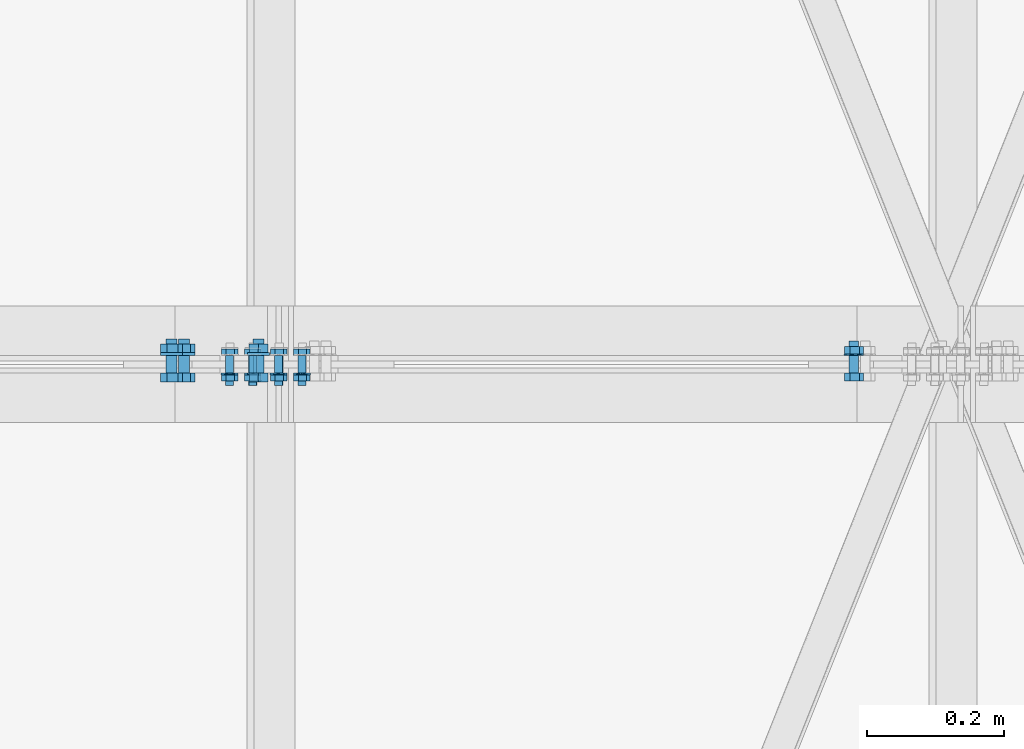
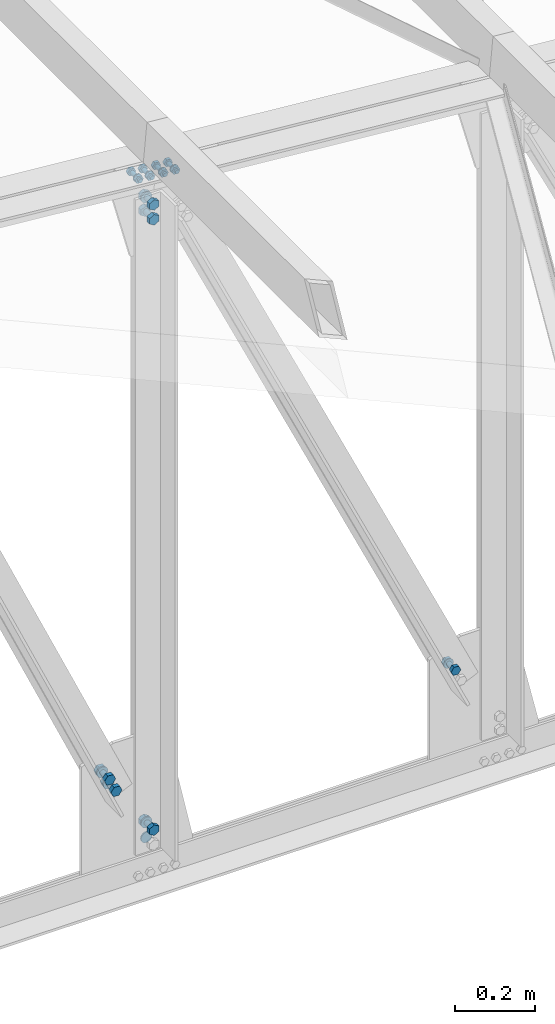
# One storey, part 123 of 251: 40 mechanical fasteners.
"""IFC4 building model written with IfcOpenShell, lengths in metres."""

from ifc_helpers import new_model, si_unit, frame, origin_with_axes, place, context, project, spatial, polyline, outline, extrude, type_object, element, save


model = new_model("IFC4")

# Units and contexts
model_context = context("Model", 3, precision=1e-05, world=origin_with_axes())
ifc_project = project(units=[si_unit("LENGTHUNIT", "METRE"), si_unit("AREAUNIT", "SQUARE_METRE"), si_unit("VOLUMEUNIT", "CUBIC_METRE"), si_unit("MASSUNIT", "GRAM", prefix="KILO"), si_unit("TIMEUNIT", "SECOND"), si_unit("PLANEANGLEUNIT", "RADIAN"), si_unit("SOLIDANGLEUNIT", "STERADIAN"), si_unit("THERMODYNAMICTEMPERATUREUNIT", "DEGREE_CELSIUS")], contexts=[model_context])

# Site, building, storey
placement_1 = place(None, origin_with_axes())
site = spatial("IfcSite", under=ifc_project, at=placement_1, Name="Italia", CompositionType="ELEMENT")
building = spatial("IfcBuilding", under=site, at=placement_1, Name="Deposito", CompositionType="ELEMENT")
storey = spatial("IfcBuildingStorey", under=building, at=placement_1, Name="Storey 0", CompositionType="ELEMENT", Elevation=0.0)

# Mechanical fasteners
mechanical_fastener_type_1 = type_object("IfcMechanicalFastenerType", Name="Reticolare 4", PredefinedType="BOLT")
placement_2 = place(placement_1, origin_with_axes())
mechanical_fastener_1_placement = place(placement_2, origin_with_axes())
element("IfcMechanicalFastener", 1, at=mechanical_fastener_1_placement, inside=storey, type_object=mechanical_fastener_type_1, Name="Reticolare 4", NominalDiameter=0.032, context=model_context, shape_type="SweptSolid", body=[
    extrude(outline(polyline([(0.0, 0.0), (-0.000545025, -0.00414133), (-0.00214338, -0.0079999), (-0.00468588, -0.0113139), (-0.0079999, -0.0138564), (-0.0118585, -0.0154548), (-0.0159998, -0.0159998), (-0.0201411, -0.0154548), (-0.0239997, -0.0138564), (-0.0273137, -0.0113139), (-0.0298562, -0.0079999), (-0.0314546, -0.00414133), (-0.0319996, 0.0), (-0.0314546, 0.00414133), (-0.0298562, 0.0079999), (-0.0273137, 0.0113139), (-0.0239997, 0.0138564), (-0.0201411, 0.0154548), (-0.0159998, 0.0159998), (-0.0118585, 0.0154548), (-0.0079999, 0.0138564), (-0.00468588, 0.0113139), (-0.00214338, 0.0079999), (-0.000545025, 0.00414133), (0.0, 0.0)])), frame((7.05447, 10.017, 5.09153), z_axis=(0.0, -1.0, 0.0), x_axis=(1.0, 0.0, 0.0)), (0.0, 0.0, 1.0), 0.00400066),
])
mechanical_fastener_type_2 = type_object("IfcMechanicalFastenerType", Name="Reticolare 4", PredefinedType="BOLT")
mechanical_fastener_2_placement = place(placement_2, origin_with_axes())
element("IfcMechanicalFastener", 2, at=mechanical_fastener_2_placement, inside=storey, type_object=mechanical_fastener_type_2, Name="Reticolare 4", NominalDiameter=0.016, context=model_context, shape_type="SweptSolid", body=[
    extrude(outline(polyline([(0.0, 0.0), (0.0, -0.0160003), (-0.0138564, -0.0240002), (-0.0277128, -0.0160003), (-0.0277128, 0.0), (-0.0138564, 0.0079999), (0.0, 0.0)])), frame((7.05233, 9.987, 5.14453), z_axis=(0.0, -1.0, 0.0), x_axis=(1.0, 0.0, 0.0)), (0.0, 0.0, 1.0), 0.0128002),
])
mechanical_fastener_type_3 = type_object("IfcMechanicalFastenerType", Name="Reticolare 4", PredefinedType="BOLT")
mechanical_fastener_3_placement = place(placement_2, origin_with_axes())
element("IfcMechanicalFastener", 3, at=mechanical_fastener_3_placement, inside=storey, type_object=mechanical_fastener_type_3, Name="Reticolare 4", NominalDiameter=0.016, context=model_context, shape_type="SweptSolid", body=[
    extrude(outline(polyline([(0.0, 0.0), (-0.000272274, -0.00207043), (-0.00107193, -0.00400019), (-0.00234318, -0.00565672), (-0.00399971, -0.00692797), (-0.00592947, -0.00772762), (-0.0079999, -0.0079999), (-0.0100703, -0.00772762), (-0.0120001, -0.00692797), (-0.0136566, -0.00565672), (-0.0149279, -0.00400019), (-0.0157275, -0.00207043), (-0.0159998, 0.0), (-0.0157275, 0.00207043), (-0.0149279, 0.00400019), (-0.0136566, 0.00565672), (-0.0120001, 0.00692797), (-0.0100703, 0.00772762), (-0.0079999, 0.0079999), (-0.00592947, 0.00772762), (-0.00399971, 0.00692797), (-0.00234318, 0.00565672), (-0.00107193, 0.00400019), (-0.000272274, 0.00207043), (0.0, 0.0)])), frame((7.04647, 10.037, 5.13653), z_axis=(0.0, -1.0, 0.0), x_axis=(1.0, 0.0, 0.0)), (0.0, 0.0, 1.0), 0.0499992),
])
mechanical_fastener_type_4 = type_object("IfcMechanicalFastenerType", Name="Reticolare 4", PredefinedType="BOLT")
mechanical_fastener_4_placement = place(placement_2, origin_with_axes())
element("IfcMechanicalFastener", 4, at=mechanical_fastener_4_placement, inside=storey, type_object=mechanical_fastener_type_4, Name="Reticolare 4", NominalDiameter=0.016, context=model_context, shape_type="SweptSolid", body=[
    extrude(outline(polyline([(0.0, 0.0), (0.0, -0.0160003), (-0.0138564, -0.0240002), (-0.0277128, -0.0160003), (-0.0277128, 0.0), (-0.0138564, 0.0079999), (0.0, 0.0)])), frame((7.05233, 10.0298, 5.14453), z_axis=(0.0, -1.0, 0.0), x_axis=(1.0, 0.0, 0.0)), (0.0, 0.0, 1.0), 0.0128002),
])
mechanical_fastener_type_5 = type_object("IfcMechanicalFastenerType", Name="Reticolare 4", PredefinedType="BOLT")
mechanical_fastener_5_placement = place(placement_2, origin_with_axes())
element("IfcMechanicalFastener", 5, at=mechanical_fastener_5_placement, inside=storey, type_object=mechanical_fastener_type_5, Name="Reticolare 4", NominalDiameter=0.032, context=model_context, shape_type="SweptSolid", body=[
    extrude(outline(polyline([(0.0, 0.0), (-0.000545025, -0.00414133), (-0.00214338, -0.0079999), (-0.00468588, -0.0113139), (-0.0079999, -0.0138564), (-0.0118585, -0.0154548), (-0.0159998, -0.0159998), (-0.0201411, -0.0154548), (-0.0239997, -0.0138564), (-0.0273137, -0.0113139), (-0.0298562, -0.0079999), (-0.0314546, -0.00414133), (-0.0319996, 0.0), (-0.0314546, 0.00414133), (-0.0298562, 0.0079999), (-0.0273137, 0.0113139), (-0.0239997, 0.0138564), (-0.0201411, 0.0154548), (-0.0159998, 0.0159998), (-0.0118585, 0.0154548), (-0.0079999, 0.0138564), (-0.00468588, 0.0113139), (-0.00214338, 0.0079999), (-0.000545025, 0.00414133), (0.0, 0.0)])), frame((7.05447, 10.017, 5.13653), z_axis=(0.0, -1.0, 0.0), x_axis=(1.0, 0.0, 0.0)), (0.0, 0.0, 1.0), 0.00400066),
])
mechanical_fastener_type_6 = type_object("IfcMechanicalFastenerType", Name="Reticolare 4", PredefinedType="BOLT")
mechanical_fastener_6_placement = place(placement_2, origin_with_axes())
element("IfcMechanicalFastener", 6, at=mechanical_fastener_6_placement, inside=storey, type_object=mechanical_fastener_type_6, Name="Reticolare 4", NominalDiameter=0.0159996, context=model_context, shape_type="SweptSolid", body=[
    extrude(outline(polyline([(0.0, 0.0), (-0.00656796, 0.0145898), (0.00278282, 0.0275726), (0.018702, 0.0259657), (0.02527, 0.0113759), (0.0159187, -0.00160694), (0.0, 0.0)])), frame((6.92035, 9.987, 5.27987), z_axis=(0.0, -1.0, 0.0), x_axis=(1.0, 0.0, 0.0)), (0.0, 0.0, 1.0), 0.0128002),
])
mechanical_fastener_type_7 = type_object("IfcMechanicalFastenerType", Name="Reticolare 4", PredefinedType="BOLT")
mechanical_fastener_7_placement = place(placement_2, origin_with_axes())
element("IfcMechanicalFastener", 7, at=mechanical_fastener_7_placement, inside=storey, type_object=mechanical_fastener_type_7, Name="Reticolare 4", NominalDiameter=0.016, context=model_context, shape_type="SweptSolid", body=[
    extrude(outline(polyline([(0.0, 0.0), (-0.000272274, -0.00207043), (-0.00107193, -0.00400019), (-0.00234318, -0.00565672), (-0.00399971, -0.00692797), (-0.00592947, -0.00772762), (-0.0079999, -0.0079999), (-0.0100703, -0.00772762), (-0.0120001, -0.00692797), (-0.0136566, -0.00565672), (-0.0149279, -0.00400019), (-0.0157275, -0.00207043), (-0.0159998, 0.0), (-0.0157275, 0.00207043), (-0.0149279, 0.00400019), (-0.0136566, 0.00565672), (-0.0120001, 0.00692797), (-0.0100703, 0.00772762), (-0.0079999, 0.0079999), (-0.00592947, 0.00772762), (-0.00399971, 0.00692797), (-0.00234318, 0.00565672), (-0.00107193, 0.00400019), (-0.000272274, 0.00207043), (0.0, 0.0)])), frame((6.9377, 10.037, 5.29285), z_axis=(0.0, -1.0, 0.0), x_axis=(1.0, 0.0, 0.0)), (0.0, 0.0, 1.0), 0.0499992),
])
mechanical_fastener_type_8 = type_object("IfcMechanicalFastenerType", Name="Reticolare 4", PredefinedType="BOLT")
mechanical_fastener_8_placement = place(placement_2, origin_with_axes())
element("IfcMechanicalFastener", 8, at=mechanical_fastener_8_placement, inside=storey, type_object=mechanical_fastener_type_8, Name="Reticolare 4", NominalDiameter=0.0159996, context=model_context, shape_type="SweptSolid", body=[
    extrude(outline(polyline([(0.0, 0.0), (-0.00656796, 0.0145898), (0.00278282, 0.0275726), (0.018702, 0.0259657), (0.02527, 0.0113759), (0.0159187, -0.00160694), (0.0, 0.0)])), frame((6.92035, 10.0298, 5.27987), z_axis=(0.0, -1.0, 0.0), x_axis=(1.0, 0.0, 0.0)), (0.0, 0.0, 1.0), 0.0128002),
])
mechanical_fastener_type_9 = type_object("IfcMechanicalFastenerType", Name="Reticolare 4", PredefinedType="BOLT")
mechanical_fastener_9_placement = place(placement_2, origin_with_axes())
element("IfcMechanicalFastener", 9, at=mechanical_fastener_9_placement, inside=storey, type_object=mechanical_fastener_type_9, Name="Reticolare 4", NominalDiameter=0.032, context=model_context, shape_type="SweptSolid", body=[
    extrude(outline(polyline([(0.0, 0.0), (-0.000545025, -0.00414133), (-0.00214338, -0.0079999), (-0.00468588, -0.0113139), (-0.0079999, -0.0138564), (-0.0118585, -0.0154548), (-0.0159998, -0.0159998), (-0.0201411, -0.0154548), (-0.0239997, -0.0138564), (-0.0273137, -0.0113139), (-0.0298562, -0.0079999), (-0.0314546, -0.00414133), (-0.0319996, 0.0), (-0.0314546, 0.00414133), (-0.0298562, 0.0079999), (-0.0273137, 0.0113139), (-0.0239997, 0.0138564), (-0.0201411, 0.0154548), (-0.0159998, 0.0159998), (-0.0118585, 0.0154548), (-0.0079999, 0.0138564), (-0.00468588, 0.0113139), (-0.00214338, 0.0079999), (-0.000545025, 0.00414133), (0.0, 0.0)])), frame((6.9457, 10.017, 5.29285), z_axis=(0.0, -1.0, 0.0), x_axis=(1.0, 0.0, 0.0)), (0.0, 0.0, 1.0), 0.00400066),
])
mechanical_fastener_type_10 = type_object("IfcMechanicalFastenerType", Name="Reticolare 4", PredefinedType="BOLT")
mechanical_fastener_10_placement = place(placement_2, origin_with_axes())
element("IfcMechanicalFastener", 10, at=mechanical_fastener_10_placement, inside=storey, type_object=mechanical_fastener_type_10, Name="Reticolare 4", NominalDiameter=0.016, context=model_context, shape_type="SweptSolid", body=[
    extrude(outline(polyline([(0.0, 0.0), (-0.00656796, 0.0145898), (0.0027833, 0.0275726), (0.0187025, 0.0259657), (0.0252705, 0.0113759), (0.0159192, -0.00160694), (0.0, 0.0)])), frame((6.90187, 9.987, 5.3209), z_axis=(0.0, -1.0, 0.0), x_axis=(1.0, 0.0, 0.0)), (0.0, 0.0, 1.0), 0.0128002),
])
mechanical_fastener_type_11 = type_object("IfcMechanicalFastenerType", Name="Reticolare 4", PredefinedType="BOLT")
mechanical_fastener_11_placement = place(placement_2, origin_with_axes())
element("IfcMechanicalFastener", 11, at=mechanical_fastener_11_placement, inside=storey, type_object=mechanical_fastener_type_11, Name="Reticolare 4", NominalDiameter=0.016, context=model_context, shape_type="SweptSolid", body=[
    extrude(outline(polyline([(0.0, 0.0), (-0.000272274, -0.00207043), (-0.00107193, -0.00400019), (-0.00234318, -0.00565672), (-0.00399971, -0.00692797), (-0.00592947, -0.00772762), (-0.0079999, -0.0079999), (-0.0100703, -0.00772762), (-0.0120001, -0.00692797), (-0.0136566, -0.00565672), (-0.0149279, -0.00400019), (-0.0157275, -0.00207043), (-0.0159998, 0.0), (-0.0157275, 0.00207043), (-0.0149279, 0.00400019), (-0.0136566, 0.00565672), (-0.0120001, 0.00692797), (-0.0100703, 0.00772762), (-0.0079999, 0.0079999), (-0.00592947, 0.00772762), (-0.00399971, 0.00692797), (-0.00234318, 0.00565672), (-0.00107193, 0.00400019), (-0.000272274, 0.00207043), (0.0, 0.0)])), frame((6.91923, 10.037, 5.33389), z_axis=(0.0, -1.0, 0.0), x_axis=(1.0, 0.0, 0.0)), (0.0, 0.0, 1.0), 0.0499992),
])
mechanical_fastener_type_12 = type_object("IfcMechanicalFastenerType", Name="Reticolare 4", PredefinedType="BOLT")
mechanical_fastener_12_placement = place(placement_2, origin_with_axes())
element("IfcMechanicalFastener", 12, at=mechanical_fastener_12_placement, inside=storey, type_object=mechanical_fastener_type_12, Name="Reticolare 4", NominalDiameter=0.016, context=model_context, shape_type="SweptSolid", body=[
    extrude(outline(polyline([(0.0, 0.0), (-0.00656796, 0.0145898), (0.0027833, 0.0275726), (0.0187025, 0.0259657), (0.0252705, 0.0113759), (0.0159192, -0.00160694), (0.0, 0.0)])), frame((6.90187, 10.0298, 5.3209), z_axis=(0.0, -1.0, 0.0), x_axis=(1.0, 0.0, 0.0)), (0.0, 0.0, 1.0), 0.0128002),
])
mechanical_fastener_type_13 = type_object("IfcMechanicalFastenerType", Name="Reticolare 4", PredefinedType="BOLT")
mechanical_fastener_13_placement = place(placement_2, origin_with_axes())
element("IfcMechanicalFastener", 13, at=mechanical_fastener_13_placement, inside=storey, type_object=mechanical_fastener_type_13, Name="Reticolare 4", NominalDiameter=0.032, context=model_context, shape_type="SweptSolid", body=[
    extrude(outline(polyline([(0.0, 0.0), (-0.000545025, -0.00414133), (-0.00214338, -0.0079999), (-0.00468588, -0.0113139), (-0.0079999, -0.0138564), (-0.0118585, -0.0154548), (-0.0159998, -0.0159998), (-0.0201411, -0.0154548), (-0.0239997, -0.0138564), (-0.0273137, -0.0113139), (-0.0298562, -0.0079999), (-0.0314546, -0.00414133), (-0.0319996, 0.0), (-0.0314546, 0.00414133), (-0.0298562, 0.0079999), (-0.0273137, 0.0113139), (-0.0239997, 0.0138564), (-0.0201411, 0.0154548), (-0.0159998, 0.0159998), (-0.0118585, 0.0154548), (-0.0079999, 0.0138564), (-0.00468588, 0.0113139), (-0.00214338, 0.0079999), (-0.000545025, 0.00414133), (0.0, 0.0)])), frame((6.92723, 10.017, 5.33389), z_axis=(0.0, -1.0, 0.0), x_axis=(1.0, 0.0, 0.0)), (0.0, 0.0, 1.0), 0.00400066),
])
mechanical_fastener_type_14 = type_object("IfcMechanicalFastenerType", Name="Reticolare 4", PredefinedType="BOLT")
mechanical_fastener_14_placement = place(placement_2, origin_with_axes())
element("IfcMechanicalFastener", 14, at=mechanical_fastener_14_placement, inside=storey, type_object=mechanical_fastener_type_14, Name="Reticolare 4", NominalDiameter=0.0139998, context=model_context, shape_type="SweptSolid", body=[
    extrude(outline(polyline([(0.0, 0.0), (-0.00592422, 0.0126848), (0.00209904, 0.0241575), (0.0160465, 0.0229459), (0.0219707, 0.0102611), (0.0139475, -0.00121212), (0.0, 0.0)])), frame((7.89994, 9.987, 5.30463), z_axis=(0.0, -1.0, 0.0), x_axis=(1.0, 0.0, 0.0)), (0.0, 0.0, 1.0), 0.0112009),
])
mechanical_fastener_type_15 = type_object("IfcMechanicalFastenerType", Name="Reticolare 4", PredefinedType="BOLT")
mechanical_fastener_15_placement = place(placement_2, origin_with_axes())
element("IfcMechanicalFastener", 15, at=mechanical_fastener_15_placement, inside=storey, type_object=mechanical_fastener_type_15, Name="Reticolare 4", NominalDiameter=0.014, context=model_context, shape_type="SweptSolid", body=[
    extrude(outline(polyline([(0.0, 0.0), (-0.000238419, -0.0018115), (-0.000937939, -0.00349998), (-0.0020504, -0.00494957), (-0.00349998, -0.00606203), (-0.00518847, -0.00676155), (-0.00699997, -0.00699997), (-0.00881147, -0.00676155), (-0.0105, -0.00606203), (-0.0119495, -0.00494957), (-0.013062, -0.00349998), (-0.0137615, -0.0018115), (-0.0139999, 0.0), (-0.0137615, 0.0018115), (-0.013062, 0.00349998), (-0.0119495, 0.00494957), (-0.0105, 0.00606203), (-0.00881147, 0.00676155), (-0.00699997, 0.00699997), (-0.00518847, 0.00676155), (-0.00349998, 0.00606203), (-0.0020504, 0.00494957), (-0.000937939, 0.00349998), (-0.000238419, 0.0018115), (0.0, 0.0)])), frame((7.91497, 10.034, 5.3161), z_axis=(0.0, -1.0, 0.0), x_axis=(1.0, 0.0, 0.0)), (0.0, 0.0, 1.0), 0.0469999),
])
mechanical_fastener_type_16 = type_object("IfcMechanicalFastenerType", Name="Reticolare 4", PredefinedType="BOLT")
mechanical_fastener_16_placement = place(placement_2, origin_with_axes())
element("IfcMechanicalFastener", 16, at=mechanical_fastener_16_placement, inside=storey, type_object=mechanical_fastener_type_16, Name="Reticolare 4", NominalDiameter=0.0139998, context=model_context, shape_type="SweptSolid", body=[
    extrude(outline(polyline([(0.0, 0.0), (-0.00592422, 0.0126848), (0.00209904, 0.0241575), (0.0160465, 0.0229459), (0.0219707, 0.0102611), (0.0139475, -0.00121212), (0.0, 0.0)])), frame((7.89994, 10.0262, 5.30463), z_axis=(0.0, -1.0, 0.0), x_axis=(1.0, 0.0, 0.0)), (0.0, 0.0, 1.0), 0.0112),
])
mechanical_fastener_type_17 = type_object("IfcMechanicalFastenerType", Name="Reticolare 4", PredefinedType="BOLT")
mechanical_fastener_17_placement = place(placement_2, origin_with_axes())
element("IfcMechanicalFastener", 17, at=mechanical_fastener_17_placement, inside=storey, type_object=mechanical_fastener_type_17, Name="Reticolare 4", NominalDiameter=0.028, context=model_context, shape_type="SweptSolid", body=[
    extrude(outline(polyline([(0.0, 0.0), (-0.000476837, -0.00362349), (-0.0018754, -0.00699997), (-0.00410032, -0.00989962), (-0.00699997, -0.0121245), (-0.0103765, -0.0135231), (-0.0139999, -0.0139999), (-0.0176234, -0.0135231), (-0.0209999, -0.0121245), (-0.0238996, -0.00989962), (-0.0261245, -0.00699997), (-0.027523, -0.00362349), (-0.0279999, 0.0), (-0.027523, 0.00362349), (-0.0261245, 0.00699997), (-0.0238996, 0.00989962), (-0.0209999, 0.0121245), (-0.0176234, 0.0135231), (-0.0139999, 0.0139999), (-0.0103765, 0.0135231), (-0.00699997, 0.0121245), (-0.00410032, 0.00989962), (-0.0018754, 0.00699997), (-0.000476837, 0.00362349), (0.0, 0.0)])), frame((7.92197, 10.015, 5.3161), z_axis=(0.0, -1.0, 0.0), x_axis=(1.0, 0.0, 0.0)), (0.0, 0.0, 1.0), 0.00200081),
])
mechanical_fastener_type_18 = type_object("IfcMechanicalFastenerType", Name="Reticolare 4", PredefinedType="BOLT")
mechanical_fastener_18_placement = place(placement_2, origin_with_axes())
element("IfcMechanicalFastener", 18, at=mechanical_fastener_18_placement, inside=storey, type_object=mechanical_fastener_type_18, Name="Reticolare 4", NominalDiameter=0.0119999, context=model_context, shape_type="SweptSolid", body=[
    extrude(outline(polyline([(0.0, 0.0), (0.0119543, 0.0010457), (0.018837, -0.00878429), (0.0137658, -0.01966), (0.0018115, -0.0207057), (-0.00507164, -0.0108757), (0.0, 0.0)])), frame((7.07467, 10.013, 7.13423), z_axis=(0.0, 1.0, 0.0), x_axis=(-1.0, 0.0, 0.0)), (0.0, 0.0, 1.0), 0.00960064),
])
mechanical_fastener_type_19 = type_object("IfcMechanicalFastenerType", Name="Reticolare 4", PredefinedType="BOLT")
mechanical_fastener_19_placement = place(placement_2, origin_with_axes())
element("IfcMechanicalFastener", 19, at=mechanical_fastener_19_placement, inside=storey, type_object=mechanical_fastener_type_19, Name="Reticolare 4", NominalDiameter=0.012, context=model_context, shape_type="SweptSolid", body=[
    extrude(outline(polyline([(0.0, 0.0), (-0.000204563, -0.00155306), (-0.000803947, -0.00299978), (-0.00175762, -0.00424242), (-0.00300026, -0.00519609), (-0.00444698, -0.00579548), (-0.00600004, -0.00600004), (-0.0075531, -0.00579548), (-0.00899982, -0.00519609), (-0.0102425, -0.00424242), (-0.0111961, -0.00299978), (-0.0117955, -0.00155306), (-0.0120001, 0.0), (-0.0117955, 0.00155306), (-0.0111961, 0.00299978), (-0.0102425, 0.00424242), (-0.00899982, 0.00519609), (-0.0075531, 0.00579548), (-0.00600004, 0.00600004), (-0.00444698, 0.00579548), (-0.00300026, 0.00519609), (-0.00175762, 0.00424242), (-0.000803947, 0.00299978), (-0.000204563, 0.00155306), (0.0, 0.0)])), frame((7.06179, 9.969, 7.1244), z_axis=(0.0, 1.0, 0.0), x_axis=(-1.0, 0.0, 0.0)), (0.0, 0.0, 1.0), 0.0439997),
])
mechanical_fastener_type_20 = type_object("IfcMechanicalFastenerType", Name="Reticolare 4", PredefinedType="BOLT")
mechanical_fastener_20_placement = place(placement_2, origin_with_axes())
element("IfcMechanicalFastener", 20, at=mechanical_fastener_20_placement, inside=storey, type_object=mechanical_fastener_type_20, Name="Reticolare 4", NominalDiameter=0.0119999, context=model_context, shape_type="SweptSolid", body=[
    extrude(outline(polyline([(0.0, 0.0), (0.0119543, 0.0010457), (0.018837, -0.00878429), (0.0137658, -0.01966), (0.0018115, -0.0207057), (-0.00507164, -0.0108757), (0.0, 0.0)])), frame((7.07467, 9.9754, 7.13423), z_axis=(0.0, 1.0, 0.0), x_axis=(-1.0, 0.0, 0.0)), (0.0, 0.0, 1.0), 0.00959969),
])
mechanical_fastener_type_21 = type_object("IfcMechanicalFastenerType", Name="Reticolare 4", PredefinedType="BOLT")
mechanical_fastener_21_placement = place(placement_2, origin_with_axes())
element("IfcMechanicalFastener", 21, at=mechanical_fastener_21_placement, inside=storey, type_object=mechanical_fastener_type_21, Name="Reticolare 4", NominalDiameter=0.024, context=model_context, shape_type="SweptSolid", body=[
    extrude(outline(polyline([(0.0, 0.0), (-0.000409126, -0.00310564), (-0.00160789, -0.00600004), (-0.00351477, -0.00848532), (-0.00600004, -0.0103922), (-0.00889444, -0.011591), (-0.0120001, -0.0120001), (-0.0151057, -0.011591), (-0.0180001, -0.0103922), (-0.0204854, -0.00848532), (-0.0223923, -0.00600004), (-0.023591, -0.00310564), (-0.0240002, 0.0), (-0.023591, 0.00310564), (-0.0223923, 0.00600004), (-0.0204854, 0.00848532), (-0.0180001, 0.0103922), (-0.0151057, 0.011591), (-0.0120001, 0.0120001), (-0.00889444, 0.011591), (-0.00600004, 0.0103922), (-0.00351477, 0.00848532), (-0.00160789, 0.00600004), (-0.000409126, 0.00310564), (0.0, 0.0)])), frame((7.05579, 9.985, 7.1244), z_axis=(0.0, 1.0, 0.0), x_axis=(-1.0, 0.0, 0.0)), (0.0, 0.0, 1.0), 0.00200081),
])
mechanical_fastener_type_22 = type_object("IfcMechanicalFastenerType", Name="Reticolare 4", PredefinedType="BOLT")
mechanical_fastener_22_placement = place(placement_2, origin_with_axes())
element("IfcMechanicalFastener", 22, at=mechanical_fastener_22_placement, inside=storey, type_object=mechanical_fastener_type_22, Name="Reticolare 4", NominalDiameter=0.0119996, context=model_context, shape_type="SweptSolid", body=[
    extrude(outline(polyline([(0.0, 0.0), (0.0119543, 0.0010457), (0.018837, -0.00878382), (0.0137658, -0.0196595), (0.0018115, -0.0207052), (-0.00507164, -0.0108757), (0.0, 0.0)])), frame((7.10854, 10.013, 7.13126), z_axis=(0.0, 1.0, 0.0), x_axis=(-1.0, 0.0, 0.0)), (0.0, 0.0, 1.0), 0.00960064),
])
mechanical_fastener_type_23 = type_object("IfcMechanicalFastenerType", Name="Reticolare 4", PredefinedType="BOLT")
mechanical_fastener_23_placement = place(placement_2, origin_with_axes())
element("IfcMechanicalFastener", 23, at=mechanical_fastener_23_placement, inside=storey, type_object=mechanical_fastener_type_23, Name="Reticolare 4", NominalDiameter=0.012, context=model_context, shape_type="SweptSolid", body=[
    extrude(outline(polyline([(0.0, 0.0), (-0.000204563, -0.00155306), (-0.000803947, -0.00299978), (-0.00175762, -0.00424242), (-0.00300026, -0.00519609), (-0.00444698, -0.00579548), (-0.00600004, -0.00600004), (-0.0075531, -0.00579548), (-0.00899982, -0.00519609), (-0.0102425, -0.00424242), (-0.0111961, -0.00299978), (-0.0117955, -0.00155306), (-0.0120001, 0.0), (-0.0117955, 0.00155306), (-0.0111961, 0.00299978), (-0.0102425, 0.00424242), (-0.00899982, 0.00519609), (-0.0075531, 0.00579548), (-0.00600004, 0.00600004), (-0.00444698, 0.00579548), (-0.00300026, 0.00519609), (-0.00175762, 0.00424242), (-0.000803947, 0.00299978), (-0.000204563, 0.00155306), (0.0, 0.0)])), frame((7.09566, 9.969, 7.12143), z_axis=(0.0, 1.0, 0.0), x_axis=(-1.0, 0.0, 0.0)), (0.0, 0.0, 1.0), 0.0439997),
])
mechanical_fastener_type_24 = type_object("IfcMechanicalFastenerType", Name="Reticolare 4", PredefinedType="BOLT")
mechanical_fastener_24_placement = place(placement_2, origin_with_axes())
element("IfcMechanicalFastener", 24, at=mechanical_fastener_24_placement, inside=storey, type_object=mechanical_fastener_type_24, Name="Reticolare 4", NominalDiameter=0.0119996, context=model_context, shape_type="SweptSolid", body=[
    extrude(outline(polyline([(0.0, 0.0), (0.0119543, 0.0010457), (0.018837, -0.00878382), (0.0137658, -0.0196595), (0.0018115, -0.0207052), (-0.00507164, -0.0108757), (0.0, 0.0)])), frame((7.10854, 9.9754, 7.13126), z_axis=(0.0, 1.0, 0.0), x_axis=(-1.0, 0.0, 0.0)), (0.0, 0.0, 1.0), 0.00959969),
])
mechanical_fastener_type_25 = type_object("IfcMechanicalFastenerType", Name="Reticolare 4", PredefinedType="BOLT")
mechanical_fastener_25_placement = place(placement_2, origin_with_axes())
element("IfcMechanicalFastener", 25, at=mechanical_fastener_25_placement, inside=storey, type_object=mechanical_fastener_type_25, Name="Reticolare 4", NominalDiameter=0.024, context=model_context, shape_type="SweptSolid", body=[
    extrude(outline(polyline([(0.0, 0.0), (-0.000409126, -0.00310564), (-0.00160789, -0.00600004), (-0.00351477, -0.00848532), (-0.00600004, -0.0103922), (-0.00889444, -0.011591), (-0.0120001, -0.0120001), (-0.0151057, -0.011591), (-0.0180001, -0.0103922), (-0.0204854, -0.00848532), (-0.0223923, -0.00600004), (-0.023591, -0.00310564), (-0.0240002, 0.0), (-0.023591, 0.00310564), (-0.0223923, 0.00600004), (-0.0204854, 0.00848532), (-0.0180001, 0.0103922), (-0.0151057, 0.011591), (-0.0120001, 0.0120001), (-0.00889444, 0.011591), (-0.00600004, 0.0103922), (-0.00351477, 0.00848532), (-0.00160789, 0.00600004), (-0.000409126, 0.00310564), (0.0, 0.0)])), frame((7.08966, 9.985, 7.12143), z_axis=(0.0, 1.0, 0.0), x_axis=(-1.0, 0.0, 0.0)), (0.0, 0.0, 1.0), 0.00200081),
])
mechanical_fastener_type_26 = type_object("IfcMechanicalFastenerType", Name="Reticolare 4", PredefinedType="BOLT")
mechanical_fastener_26_placement = place(placement_2, origin_with_axes())
element("IfcMechanicalFastener", 26, at=mechanical_fastener_26_placement, inside=storey, type_object=mechanical_fastener_type_26, Name="Reticolare 4", NominalDiameter=0.0119997, context=model_context, shape_type="SweptSolid", body=[
    extrude(outline(polyline([(0.0, 0.0), (0.0119548, 0.00104237), (0.0188346, -0.00878954), (0.0137601, -0.0196638), (0.00180578, -0.0207062), (-0.0050745, -0.0108743), (0.0, 0.0)])), frame((7.03681, 10.013, 7.13753), z_axis=(0.0, 1.0, 0.0), x_axis=(-1.0, 0.0, 0.0)), (0.0, 0.0, 1.0), 0.00960064),
])
mechanical_fastener_type_27 = type_object("IfcMechanicalFastenerType", Name="Reticolare 4", PredefinedType="BOLT")
mechanical_fastener_27_placement = place(placement_2, origin_with_axes())
element("IfcMechanicalFastener", 27, at=mechanical_fastener_27_placement, inside=storey, type_object=mechanical_fastener_type_27, Name="Reticolare 4", NominalDiameter=0.012, context=model_context, shape_type="SweptSolid", body=[
    extrude(outline(polyline([(0.0, 0.0), (-0.000204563, -0.00155306), (-0.000803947, -0.00299978), (-0.00175762, -0.00424242), (-0.00300026, -0.00519609), (-0.00444698, -0.00579548), (-0.00600004, -0.00600004), (-0.0075531, -0.00579548), (-0.00899982, -0.00519609), (-0.0102425, -0.00424242), (-0.0111961, -0.00299978), (-0.0117955, -0.00155306), (-0.0120001, 0.0), (-0.0117955, 0.00155306), (-0.0111961, 0.00299978), (-0.0102425, 0.00424242), (-0.00899982, 0.00519609), (-0.0075531, 0.00579548), (-0.00600004, 0.00600004), (-0.00444698, 0.00579548), (-0.00300026, 0.00519609), (-0.00175762, 0.00424242), (-0.000803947, 0.00299978), (-0.000204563, 0.00155306), (0.0, 0.0)])), frame((7.02393, 9.969, 7.1277), z_axis=(0.0, 1.0, 0.0), x_axis=(-1.0, 0.0, 0.0)), (0.0, 0.0, 1.0), 0.0439997),
])
mechanical_fastener_type_28 = type_object("IfcMechanicalFastenerType", Name="Reticolare 4", PredefinedType="BOLT")
mechanical_fastener_28_placement = place(placement_2, origin_with_axes())
element("IfcMechanicalFastener", 28, at=mechanical_fastener_28_placement, inside=storey, type_object=mechanical_fastener_type_28, Name="Reticolare 4", NominalDiameter=0.0119997, context=model_context, shape_type="SweptSolid", body=[
    extrude(outline(polyline([(0.0, 0.0), (0.0119548, 0.00104237), (0.0188346, -0.00878954), (0.0137601, -0.0196638), (0.00180578, -0.0207062), (-0.0050745, -0.0108743), (0.0, 0.0)])), frame((7.03681, 9.9754, 7.13753), z_axis=(0.0, 1.0, 0.0), x_axis=(-1.0, 0.0, 0.0)), (0.0, 0.0, 1.0), 0.00959969),
])
mechanical_fastener_type_29 = type_object("IfcMechanicalFastenerType", Name="Reticolare 4", PredefinedType="BOLT")
mechanical_fastener_29_placement = place(placement_2, origin_with_axes())
element("IfcMechanicalFastener", 29, at=mechanical_fastener_29_placement, inside=storey, type_object=mechanical_fastener_type_29, Name="Reticolare 4", NominalDiameter=0.024, context=model_context, shape_type="SweptSolid", body=[
    extrude(outline(polyline([(0.0, 0.0), (-0.000409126, -0.00310564), (-0.00160789, -0.00600004), (-0.00351477, -0.00848532), (-0.00600004, -0.0103922), (-0.00889444, -0.011591), (-0.0120001, -0.0120001), (-0.0151057, -0.011591), (-0.0180001, -0.0103922), (-0.0204854, -0.00848532), (-0.0223923, -0.00600004), (-0.023591, -0.00310564), (-0.0240002, 0.0), (-0.023591, 0.00310564), (-0.0223923, 0.00600004), (-0.0204854, 0.00848532), (-0.0180001, 0.0103922), (-0.0151057, 0.011591), (-0.0120001, 0.0120001), (-0.00889444, 0.011591), (-0.00600004, 0.0103922), (-0.00351477, 0.00848532), (-0.00160789, 0.00600004), (-0.000409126, 0.00310564), (0.0, 0.0)])), frame((7.01793, 9.985, 7.1277), z_axis=(0.0, 1.0, 0.0), x_axis=(-1.0, 0.0, 0.0)), (0.0, 0.0, 1.0), 0.00200081),
])
mechanical_fastener_type_30 = type_object("IfcMechanicalFastenerType", Name="Reticolare 4", PredefinedType="BOLT")
mechanical_fastener_30_placement = place(placement_2, origin_with_axes())
element("IfcMechanicalFastener", 30, at=mechanical_fastener_30_placement, inside=storey, type_object=mechanical_fastener_type_30, Name="Reticolare 4", NominalDiameter=0.012, context=model_context, shape_type="SweptSolid", body=[
    extrude(outline(polyline([(0.0, 0.0), (0.0119548, 0.00104237), (0.0188351, -0.00878954), (0.0137606, -0.0196638), (0.00180578, -0.0207062), (-0.0050745, -0.0108743), (0.0, 0.0)])), frame((7.00294, 10.013, 7.14049), z_axis=(0.0, 1.0, 0.0), x_axis=(-1.0, 0.0, 0.0)), (0.0, 0.0, 1.0), 0.00960064),
])
mechanical_fastener_type_31 = type_object("IfcMechanicalFastenerType", Name="Reticolare 4", PredefinedType="BOLT")
mechanical_fastener_31_placement = place(placement_2, origin_with_axes())
element("IfcMechanicalFastener", 31, at=mechanical_fastener_31_placement, inside=storey, type_object=mechanical_fastener_type_31, Name="Reticolare 4", NominalDiameter=0.012, context=model_context, shape_type="SweptSolid", body=[
    extrude(outline(polyline([(0.0, 0.0), (-0.000204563, -0.00155306), (-0.000803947, -0.00299978), (-0.00175762, -0.00424242), (-0.00300026, -0.00519609), (-0.00444698, -0.00579548), (-0.00600004, -0.00600004), (-0.0075531, -0.00579548), (-0.00899982, -0.00519609), (-0.0102425, -0.00424242), (-0.0111961, -0.00299978), (-0.0117955, -0.00155306), (-0.0120001, 0.0), (-0.0117955, 0.00155306), (-0.0111961, 0.00299978), (-0.0102425, 0.00424242), (-0.00899982, 0.00519609), (-0.0075531, 0.00579548), (-0.00600004, 0.00600004), (-0.00444698, 0.00579548), (-0.00300026, 0.00519609), (-0.00175762, 0.00424242), (-0.000803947, 0.00299978), (-0.000204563, 0.00155306), (0.0, 0.0)])), frame((6.99006, 9.969, 7.13066), z_axis=(0.0, 1.0, 0.0), x_axis=(-1.0, 0.0, 0.0)), (0.0, 0.0, 1.0), 0.0439997),
])
mechanical_fastener_type_32 = type_object("IfcMechanicalFastenerType", Name="Reticolare 4", PredefinedType="BOLT")
mechanical_fastener_32_placement = place(placement_2, origin_with_axes())
element("IfcMechanicalFastener", 32, at=mechanical_fastener_32_placement, inside=storey, type_object=mechanical_fastener_type_32, Name="Reticolare 4", NominalDiameter=0.012, context=model_context, shape_type="SweptSolid", body=[
    extrude(outline(polyline([(0.0, 0.0), (0.0119548, 0.00104237), (0.0188351, -0.00878954), (0.0137606, -0.0196638), (0.00180578, -0.0207062), (-0.0050745, -0.0108743), (0.0, 0.0)])), frame((7.00294, 9.9754, 7.14049), z_axis=(0.0, 1.0, 0.0), x_axis=(-1.0, 0.0, 0.0)), (0.0, 0.0, 1.0), 0.00959969),
])
mechanical_fastener_type_33 = type_object("IfcMechanicalFastenerType", Name="Reticolare 4", PredefinedType="BOLT")
mechanical_fastener_33_placement = place(placement_2, origin_with_axes())
element("IfcMechanicalFastener", 33, at=mechanical_fastener_33_placement, inside=storey, type_object=mechanical_fastener_type_33, Name="Reticolare 4", NominalDiameter=0.024, context=model_context, shape_type="SweptSolid", body=[
    extrude(outline(polyline([(0.0, 0.0), (-0.000409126, -0.00310564), (-0.00160789, -0.00600004), (-0.00351477, -0.00848532), (-0.00600004, -0.0103922), (-0.00889444, -0.011591), (-0.0120001, -0.0120001), (-0.0151057, -0.011591), (-0.0180001, -0.0103922), (-0.0204854, -0.00848532), (-0.0223923, -0.00600004), (-0.023591, -0.00310564), (-0.0240002, 0.0), (-0.023591, 0.00310564), (-0.0223923, 0.00600004), (-0.0204854, 0.00848532), (-0.0180001, 0.0103922), (-0.0151057, 0.011591), (-0.0120001, 0.0120001), (-0.00889444, 0.011591), (-0.00600004, 0.0103922), (-0.00351477, 0.00848532), (-0.00160789, 0.00600004), (-0.000409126, 0.00310564), (0.0, 0.0)])), frame((6.98406, 9.985, 7.13066), z_axis=(0.0, 1.0, 0.0), x_axis=(-1.0, 0.0, 0.0)), (0.0, 0.0, 1.0), 0.00200081),
])
mechanical_fastener_type_34 = type_object("IfcMechanicalFastenerType", Name="Reticolare 4", PredefinedType="BOLT")
mechanical_fastener_34_placement = place(placement_2, origin_with_axes())
element("IfcMechanicalFastener", 34, at=mechanical_fastener_34_placement, inside=storey, type_object=mechanical_fastener_type_34, Name="Reticolare 4", NominalDiameter=0.016, context=model_context, shape_type="SweptSolid", body=[
    extrude(outline(polyline([(0.0, 0.0), (0.0, -0.0160003), (-0.0138564, -0.0240002), (-0.0277128, -0.0160003), (-0.0277128, 0.0), (-0.0138564, 0.0079999), (0.0, 0.0)])), frame((7.05233, 9.987, 7.04726), z_axis=(0.0, -1.0, 0.0), x_axis=(1.0, 0.0, 0.0)), (0.0, 0.0, 1.0), 0.0128002),
])
mechanical_fastener_type_35 = type_object("IfcMechanicalFastenerType", Name="Reticolare 4", PredefinedType="BOLT")
mechanical_fastener_35_placement = place(placement_2, origin_with_axes())
element("IfcMechanicalFastener", 35, at=mechanical_fastener_35_placement, inside=storey, type_object=mechanical_fastener_type_35, Name="Reticolare 4", NominalDiameter=0.016, context=model_context, shape_type="SweptSolid", body=[
    extrude(outline(polyline([(0.0, 0.0), (-0.000272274, -0.00207043), (-0.00107193, -0.00400019), (-0.00234318, -0.00565672), (-0.00399971, -0.00692797), (-0.00592947, -0.00772762), (-0.0079999, -0.0079999), (-0.0100703, -0.00772762), (-0.0120001, -0.00692797), (-0.0136566, -0.00565672), (-0.0149279, -0.00400019), (-0.0157275, -0.00207043), (-0.0159998, 0.0), (-0.0157275, 0.00207043), (-0.0149279, 0.00400019), (-0.0136566, 0.00565672), (-0.0120001, 0.00692797), (-0.0100703, 0.00772762), (-0.0079999, 0.0079999), (-0.00592947, 0.00772762), (-0.00399971, 0.00692797), (-0.00234318, 0.00565672), (-0.00107193, 0.00400019), (-0.000272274, 0.00207043), (0.0, 0.0)])), frame((7.04647, 10.037, 7.03926), z_axis=(0.0, -1.0, 0.0), x_axis=(1.0, 0.0, 0.0)), (0.0, 0.0, 1.0), 0.0499992),
])
mechanical_fastener_type_36 = type_object("IfcMechanicalFastenerType", Name="Reticolare 4", PredefinedType="BOLT")
mechanical_fastener_36_placement = place(placement_2, origin_with_axes())
element("IfcMechanicalFastener", 36, at=mechanical_fastener_36_placement, inside=storey, type_object=mechanical_fastener_type_36, Name="Reticolare 4", NominalDiameter=0.016, context=model_context, shape_type="SweptSolid", body=[
    extrude(outline(polyline([(0.0, 0.0), (0.0, -0.0160003), (-0.0138564, -0.0240002), (-0.0277128, -0.0160003), (-0.0277128, 0.0), (-0.0138564, 0.0079999), (0.0, 0.0)])), frame((7.05233, 10.0298, 7.04726), z_axis=(0.0, -1.0, 0.0), x_axis=(1.0, 0.0, 0.0)), (0.0, 0.0, 1.0), 0.0128002),
])
mechanical_fastener_type_37 = type_object("IfcMechanicalFastenerType", Name="Reticolare 4", PredefinedType="BOLT")
mechanical_fastener_37_placement = place(placement_2, origin_with_axes())
element("IfcMechanicalFastener", 37, at=mechanical_fastener_37_placement, inside=storey, type_object=mechanical_fastener_type_37, Name="Reticolare 4", NominalDiameter=0.032, context=model_context, shape_type="SweptSolid", body=[
    extrude(outline(polyline([(0.0, 0.0), (-0.000545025, -0.00414133), (-0.00214338, -0.0079999), (-0.00468588, -0.0113139), (-0.0079999, -0.0138564), (-0.0118585, -0.0154548), (-0.0159998, -0.0159998), (-0.0201411, -0.0154548), (-0.0239997, -0.0138564), (-0.0273137, -0.0113139), (-0.0298562, -0.0079999), (-0.0314546, -0.00414133), (-0.0319996, 0.0), (-0.0314546, 0.00414133), (-0.0298562, 0.0079999), (-0.0273137, 0.0113139), (-0.0239997, 0.0138564), (-0.0201411, 0.0154548), (-0.0159998, 0.0159998), (-0.0118585, 0.0154548), (-0.0079999, 0.0138564), (-0.00468588, 0.0113139), (-0.00214338, 0.0079999), (-0.000545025, 0.00414133), (0.0, 0.0)])), frame((7.05447, 10.017, 7.03926), z_axis=(0.0, -1.0, 0.0), x_axis=(1.0, 0.0, 0.0)), (0.0, 0.0, 1.0), 0.00400066),
])
mechanical_fastener_type_38 = type_object("IfcMechanicalFastenerType", Name="Reticolare 4", PredefinedType="BOLT")
mechanical_fastener_38_placement = place(placement_2, origin_with_axes())
element("IfcMechanicalFastener", 38, at=mechanical_fastener_38_placement, inside=storey, type_object=mechanical_fastener_type_38, Name="Reticolare 4", NominalDiameter=0.016, context=model_context, shape_type="SweptSolid", body=[
    extrude(outline(polyline([(0.0, 0.0), (0.0, -0.0160003), (-0.0138564, -0.0240002), (-0.0277128, -0.0160003), (-0.0277128, 0.0), (-0.0138564, 0.0079999), (0.0, 0.0)])), frame((7.05233, 9.987, 7.00226), z_axis=(0.0, -1.0, 0.0), x_axis=(1.0, 0.0, 0.0)), (0.0, 0.0, 1.0), 0.0128002),
])
mechanical_fastener_type_39 = type_object("IfcMechanicalFastenerType", Name="Reticolare 4", PredefinedType="BOLT")
mechanical_fastener_39_placement = place(placement_2, origin_with_axes())
element("IfcMechanicalFastener", 39, at=mechanical_fastener_39_placement, inside=storey, type_object=mechanical_fastener_type_39, Name="Reticolare 4", NominalDiameter=0.016, context=model_context, shape_type="SweptSolid", body=[
    extrude(outline(polyline([(0.0, 0.0), (-0.000272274, -0.00207043), (-0.00107193, -0.00400019), (-0.00234318, -0.00565672), (-0.00399971, -0.00692797), (-0.00592947, -0.00772762), (-0.0079999, -0.0079999), (-0.0100703, -0.00772762), (-0.0120001, -0.00692797), (-0.0136566, -0.00565672), (-0.0149279, -0.00400019), (-0.0157275, -0.00207043), (-0.0159998, 0.0), (-0.0157275, 0.00207043), (-0.0149279, 0.00400019), (-0.0136566, 0.00565672), (-0.0120001, 0.00692797), (-0.0100703, 0.00772762), (-0.0079999, 0.0079999), (-0.00592947, 0.00772762), (-0.00399971, 0.00692797), (-0.00234318, 0.00565672), (-0.00107193, 0.00400019), (-0.000272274, 0.00207043), (0.0, 0.0)])), frame((7.04647, 10.037, 6.99426), z_axis=(0.0, -1.0, 0.0), x_axis=(1.0, 0.0, 0.0)), (0.0, 0.0, 1.0), 0.0499992),
])
mechanical_fastener_type_40 = type_object("IfcMechanicalFastenerType", Name="Reticolare 4", PredefinedType="BOLT")
mechanical_fastener_40_placement = place(placement_2, origin_with_axes())
element("IfcMechanicalFastener", 40, at=mechanical_fastener_40_placement, inside=storey, type_object=mechanical_fastener_type_40, Name="Reticolare 4", NominalDiameter=0.016, context=model_context, shape_type="SweptSolid", body=[
    extrude(outline(polyline([(0.0, 0.0), (0.0, -0.0160003), (-0.0138564, -0.0240002), (-0.0277128, -0.0160003), (-0.0277128, 0.0), (-0.0138564, 0.0079999), (0.0, 0.0)])), frame((7.05233, 10.0298, 7.00226), z_axis=(0.0, -1.0, 0.0), x_axis=(1.0, 0.0, 0.0)), (0.0, 0.0, 1.0), 0.0128002),
])

save(model, "model.ifc")
